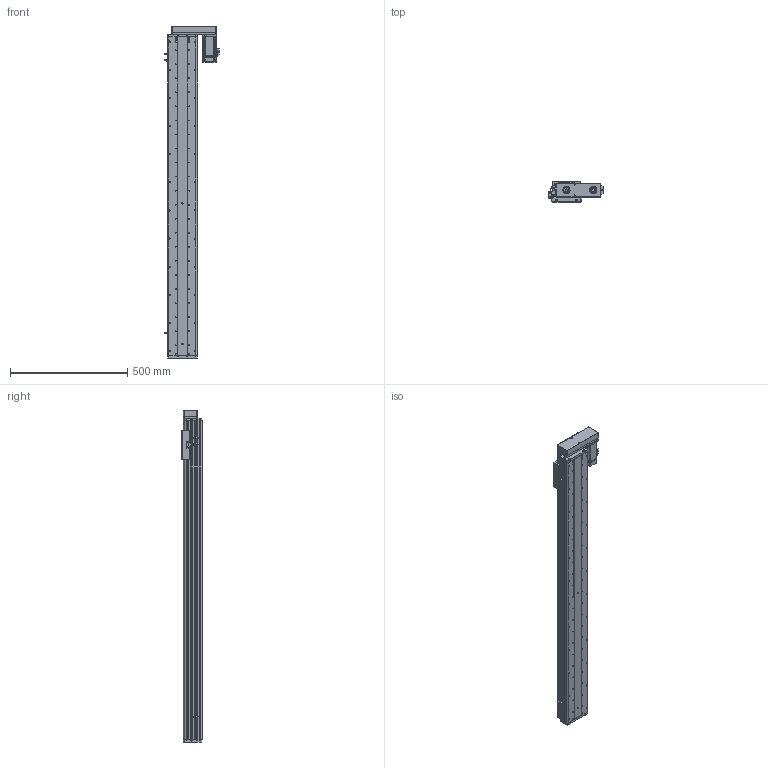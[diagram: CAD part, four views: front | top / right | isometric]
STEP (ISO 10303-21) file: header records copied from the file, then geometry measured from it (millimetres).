
FILE_DESCRIPTION (( 'STEP AP214' ), '1' );
FILE_NAME ('KSD125S-S1150-MR-CM.STEP', '2017-10-21T09:09:24', ( '微软用户' ), ( '微软中国' ), 'SwSTEP 2.0', 'SolidWorks 2014', '' );
FILE_SCHEMA (( 'AUTOMOTIVE_DESIGN' ));
Length unit declared in the file: millimetre
Products named in the file (16): 125悵誘欶酘衵殏; KSD125S-1150俴最佪裝滅鳥裔; KSD125S-1150俴最佪裝菁啣; KSD125-賑雄釱1; MHMD042G1CA_2_03; 拸萇儂釱滅袉菜; 拸萇儂釱滅袉菜-1; 覜茼え68遵圉猾敕; U倰嫖萇假蚾璃; U倰嫖萇EEㄜSX672; ヶ傷啣-125遵耀郪; 125-帣傷啣1; KSD125S-S1150-MR-CM; HTPA30S3M150_A_H6_a佪裝蚚; HTPA30S3M150_A_H6_a萇儂蚚; 125宽马达安装板连板左右折丝杆
Assembly tree (19 placements, depth 2):
  KSD125S-S1150-MR-CM
    125-帣傷啣1
    ヶ傷啣-125遵耀郪
    U倰嫖萇EEㄜSX672  x3
    U倰嫖萇假蚾璃  x3
    覜茼え68遵圉猾敕
    拸萇儂釱滅袉菜-1
    拸萇儂釱滅袉菜
    MHMD042G1CA_2_03
    KSD125-賑雄釱1
    KSD125S-1150俴最佪裝菁啣
    KSD125S-1150俴最佪裝滅鳥裔
    125悵誘欶酘衵殏
    125宽马达安装板连板左右折丝杆
    HTPA30S3M150_A_H6_a萇儂蚚
    HTPA30S3M150_A_H6_a佪裝蚚
Bounding box: 234.2 x 86 x 1417.5 mm (x, y, z)
Volume: 4374429.6 mm3; surface area: 1466990.2 mm2
Topology: 18 solids, 21 shells, 2287 faces, 6639 edges, 4381 vertices
Faces by surface type: cylinder 1454, plane 692, cone 119, bspline 22
Entity records: 81161 total; most frequent: CARTESIAN_POINT 16441, DIRECTION 12657, ORIENTED_EDGE 11786, EDGE_CURVE 5971, AXIS2_PLACEMENT_3D 4911, VERTEX_POINT 3973, CIRCLE 2843, LINE 2835
